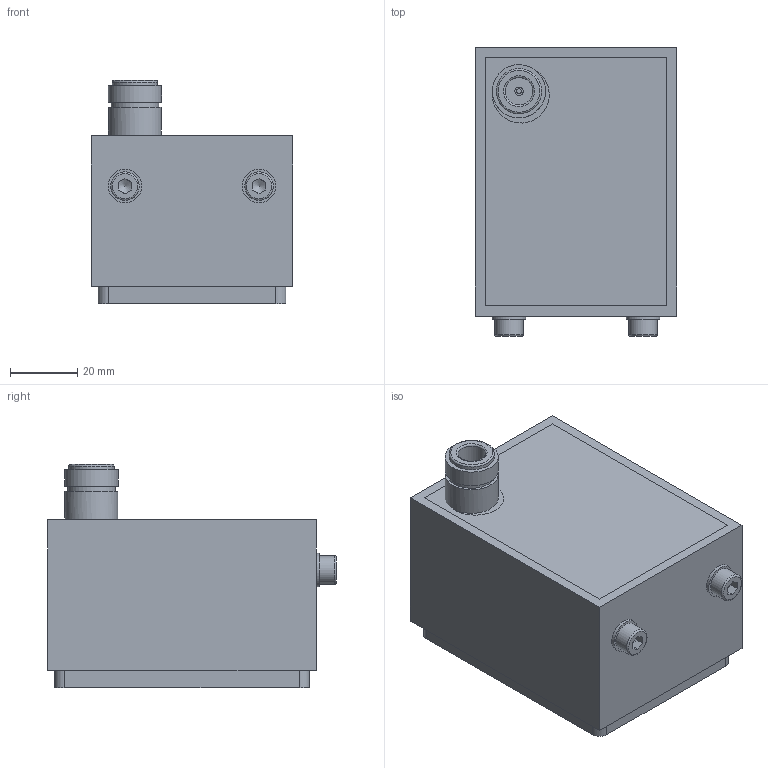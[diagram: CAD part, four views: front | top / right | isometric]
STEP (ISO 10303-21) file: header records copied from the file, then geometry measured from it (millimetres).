
FILE_DESCRIPTION(/* description */ (''),/* implementation_level */ '2;1');
FILE_NAME(/* name */ 'G:\Bibliotheken\CAD_Daten_MERP\301499\301499_Antenne_8E_2026-08-25-112353.stp',/* time_stamp */ '2026-08-25T11:23:54+02:00',/* author */ ('marquardt'),/* organization */ (''),/* preprocessor_version */ 'ST-DEVELOPER v18.1',/* originating_system */ 'Autodesk Inventor 2021',/* authorisation */ '');
FILE_SCHEMA (('AUTOMOTIVE_DESIGN { 1 0 10303 214 3 1 1 }'));
Length unit declared in the file: millimetre
Products named in the file (7): 301499_Antenne_8E; 201245_Antennengehaeuse_8E; 301499-01_Verguss8E; ISO 7046-1 - M2,5 x 3 - 4.8 - H; N-Buchse_J01021H1082_exzentrisch_bearb; ISO 7089 - 5; ISO 4762 - M5 x 8
Assembly tree (8 placements, depth 2):
  301499_Antenne_8E
    201245_Antennengehaeuse_8E
    301499-01_Verguss8E
    ISO 7046-1 - M2,5 x 3 - 4.8 - H
    N-Buchse_J01021H1082_exzentrisch_bearb
    ISO 7089 - 5  x2
    ISO 4762 - M5 x 8  x2
Bounding box: 60 x 86 x 66.5 mm (x, y, z)
Volume: 240806.3 mm3; surface area: 50988.2 mm2
Topology: 8 solids, 8 shells, 136 faces, 313 edges, 206 vertices
Faces by surface type: plane 70, cylinder 36, cone 20, torus 10
Full cylindrical faces by diameter (mm): 1.5 x1, 2.224 x1, 2.4 x1, 2.5 x2, 2.9 x1, 3 x1, 4.134 x2, 4.7 x1, 5 x3, 5.3 x2, 5.5 x2, 8.2 x1, 8.5 x2, 10 x2, 12 x1, 13.5 x1, 14.2 x1, 15.8 x1, 15.88 x1
Entity records: 3721 total; most frequent: CARTESIAN_POINT 714, DIRECTION 603, ORIENTED_EDGE 532, EDGE_CURVE 266, AXIS2_PLACEMENT_3D 232, VERTEX_POINT 178, EDGE_LOOP 144, LINE 139
